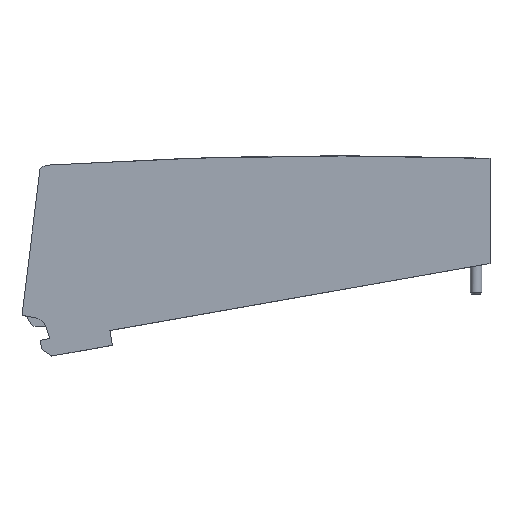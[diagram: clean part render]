
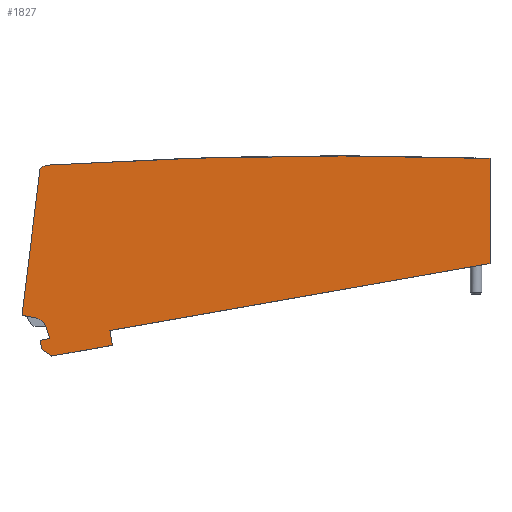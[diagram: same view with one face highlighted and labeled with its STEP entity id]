
A CAD part, top view. The second image highlights one B-rep face of the part: STEP entity #1827.
In plain terms, the highlighted planar face has unit normal (0, 0, 1).
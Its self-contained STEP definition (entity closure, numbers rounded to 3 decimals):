
#492=CARTESIAN_POINT('',(15.648,-976.575,6.15));
#493=DIRECTION('',(0.,0.,1.));
#494=DIRECTION('',(0.033,0.999,0.));
#495=AXIS2_PLACEMENT_3D('',#492,#493,#494);
#497=DIRECTION('',(0.,1.,0.));
#498=VECTOR('',#497,22.879);
#499=CARTESIAN_POINT('',(48.674,0.,6.15));
#500=LINE('',#499,#498);
#501=DIRECTION('',(0.985,0.174,0.));
#502=VECTOR('',#501,84.037);
#503=CARTESIAN_POINT('',(-34.086,-14.593,6.15));
#504=LINE('',#503,#502);
#505=DIRECTION('',(-0.174,0.985,0.));
#506=VECTOR('',#505,3.25);
#507=CARTESIAN_POINT('',(-33.522,-17.793,6.15));
#508=LINE('',#507,#506);
#509=DIRECTION('',(0.985,0.174,0.));
#510=VECTOR('',#509,13.4);
#511=CARTESIAN_POINT('',(-46.718,-20.12,6.15));
#512=LINE('',#511,#510);
#513=DIRECTION('',(0.819,-0.574,0.));
#514=VECTOR('',#513,2.687);
#515=CARTESIAN_POINT('',(-48.919,-18.579,6.15));
#516=LINE('',#515,#514);
#517=DIRECTION('',(0.174,-0.985,0.));
#518=VECTOR('',#517,1.9);
#519=CARTESIAN_POINT('',(-49.249,-16.708,6.15));
#520=LINE('',#519,#518);
#521=DIRECTION('',(-0.985,-0.174,0.));
#522=VECTOR('',#521,2.153);
#523=CARTESIAN_POINT('',(-47.129,-16.334,6.15));
#524=LINE('',#523,#522);
#525=DIRECTION('',(0.309,-0.951,0.));
#526=VECTOR('',#525,2.62);
#527=CARTESIAN_POINT('',(-47.939,-13.842,6.15));
#528=LINE('',#527,#526);
#529=CARTESIAN_POINT('',(-50.792,-14.769,6.15));
#530=DIRECTION('',(0.,0.,-1.));
#531=DIRECTION('',(0.174,0.985,0.));
#532=AXIS2_PLACEMENT_3D('',#529,#530,#531);
#534=DIRECTION('',(0.985,-0.174,0.));
#535=VECTOR('',#534,2.979);
#536=CARTESIAN_POINT('',(-53.205,-11.297,6.15));
#537=LINE('',#536,#535);
#538=DIRECTION('',(-0.122,-0.993,0.));
#539=VECTOR('',#538,31.968);
#540=CARTESIAN_POINT('',(-49.309,20.432,6.15));
#541=LINE('',#540,#539);
#542=DIRECTION('',(-0.749,-0.663,0.));
#543=VECTOR('',#542,1.496);
#544=CARTESIAN_POINT('',(-48.188,21.424,6.15));
#545=LINE('',#544,#543);
#546=DIRECTION('',(-1.,0.,0.));
#547=VECTOR('',#546,0.614);
#548=CARTESIAN_POINT('',(-47.574,21.424,6.15));
#549=LINE('',#548,#547);
#1084=CARTESIAN_POINT('',(-47.574,21.424,6.15));
#1085=CARTESIAN_POINT('',(-48.188,21.424,6.15));
#1086=VERTEX_POINT('',#1084);
#1087=VERTEX_POINT('',#1085);
#1088=CARTESIAN_POINT('',(-49.309,20.432,6.15));
#1089=VERTEX_POINT('',#1088);
#1090=CARTESIAN_POINT('',(-53.205,-11.297,6.15));
#1091=VERTEX_POINT('',#1090);
#1092=CARTESIAN_POINT('',(-50.271,-11.815,6.15));
#1093=CARTESIAN_POINT('',(-47.939,-13.842,6.15));
#1094=VERTEX_POINT('',#1092);
#1095=VERTEX_POINT('',#1093);
#1096=CARTESIAN_POINT('',(-47.129,-16.334,6.15));
#1097=VERTEX_POINT('',#1096);
#1098=CARTESIAN_POINT('',(-49.249,-16.708,6.15));
#1099=VERTEX_POINT('',#1098);
#1100=CARTESIAN_POINT('',(-48.919,-18.579,6.15));
#1101=VERTEX_POINT('',#1100);
#1102=CARTESIAN_POINT('',(-46.718,-20.12,6.15));
#1103=VERTEX_POINT('',#1102);
#1104=CARTESIAN_POINT('',(-33.522,-17.793,6.15));
#1105=VERTEX_POINT('',#1104);
#1106=CARTESIAN_POINT('',(-34.086,-14.593,6.15));
#1107=VERTEX_POINT('',#1106);
#1108=CARTESIAN_POINT('',(48.674,0.,6.15));
#1109=VERTEX_POINT('',#1108);
#1110=CARTESIAN_POINT('',(48.674,22.879,6.15));
#1111=VERTEX_POINT('',#1110);
#1806=CARTESIAN_POINT('',(0.,0.,6.15));
#1807=DIRECTION('',(0.,0.,1.));
#1808=DIRECTION('',(1.,0.,0.));
#1809=AXIS2_PLACEMENT_3D('',#1806,#1807,#1808);
#1810=PLANE('',#1809);
#1811=ORIENTED_EDGE('',*,*,#1359,.F.);
#1812=ORIENTED_EDGE('',*,*,#1420,.F.);
#1813=ORIENTED_EDGE('',*,*,#1610,.F.);
#1814=ORIENTED_EDGE('',*,*,#1630,.F.);
#1815=ORIENTED_EDGE('',*,*,#1644,.F.);
#1816=ORIENTED_EDGE('',*,*,#1658,.F.);
#1817=ORIENTED_EDGE('',*,*,#1672,.F.);
#1818=ORIENTED_EDGE('',*,*,#1686,.F.);
#1819=ORIENTED_EDGE('',*,*,#1700,.F.);
#1820=ORIENTED_EDGE('',*,*,#1719,.F.);
#1821=ORIENTED_EDGE('',*,*,#1755,.F.);
#1822=ORIENTED_EDGE('',*,*,#1773,.F.);
#1823=ORIENTED_EDGE('',*,*,#1787,.F.);
#1824=ORIENTED_EDGE('',*,*,#1800,.F.);
#1825=EDGE_LOOP('',(#1811,#1812,#1813,#1814,#1815,#1816,#1817,#1818,#1819,#1820,
#1821,#1822,#1823,#1824));
#1826=FACE_OUTER_BOUND('',#1825,.F.);
#1827=ADVANCED_FACE('',(#1826),#1810,.T.);
#496=CIRCLE('',#495,1000.);
#533=CIRCLE('',#532,3.);
#1359=EDGE_CURVE('',#1111,#1086,#496,.T.);
#1420=EDGE_CURVE('',#1109,#1111,#500,.T.);
#1610=EDGE_CURVE('',#1107,#1109,#504,.T.);
#1630=EDGE_CURVE('',#1105,#1107,#508,.T.);
#1644=EDGE_CURVE('',#1103,#1105,#512,.T.);
#1658=EDGE_CURVE('',#1101,#1103,#516,.T.);
#1672=EDGE_CURVE('',#1099,#1101,#520,.T.);
#1686=EDGE_CURVE('',#1097,#1099,#524,.T.);
#1700=EDGE_CURVE('',#1095,#1097,#528,.T.);
#1719=EDGE_CURVE('',#1094,#1095,#533,.T.);
#1755=EDGE_CURVE('',#1091,#1094,#537,.T.);
#1773=EDGE_CURVE('',#1089,#1091,#541,.T.);
#1787=EDGE_CURVE('',#1087,#1089,#545,.T.);
#1800=EDGE_CURVE('',#1086,#1087,#549,.T.);
